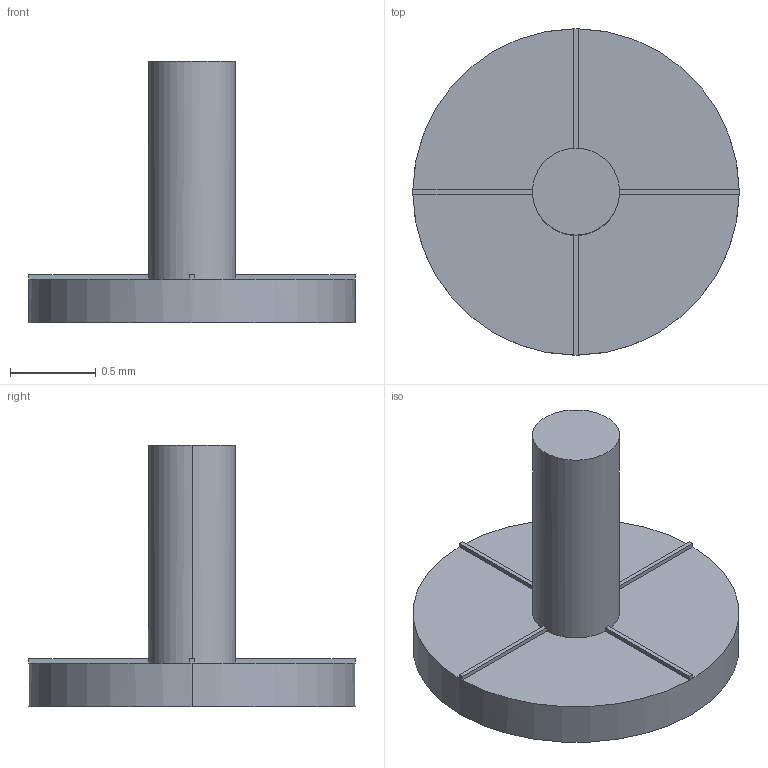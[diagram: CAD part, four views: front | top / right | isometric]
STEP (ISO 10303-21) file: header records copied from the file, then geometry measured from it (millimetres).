
FILE_DESCRIPTION((''),'2;1');
FILE_NAME('CONTACT_SIM_DUMMY-23','2020-09-24T20:53:17',('ccole'),(''),'CREO PARAMETRIC BY PTC INC, 2019292','CREO PARAMETRIC BY PTC INC, 2019292','');
FILE_SCHEMA(('CONFIG_CONTROL_DESIGN'));
Length unit declared in the file: inch
Products named in the file (1): CONTACT_SIM_DUMMY-23
Bounding box: 1.91 x 1.91 x 1.52 mm (x, y, z)
Volume: 1 mm3; surface area: 9.4 mm2
Topology: 1 solids, 1 shells, 26 faces, 64 edges, 40 vertices
Faces by surface type: plane 22, cylinder 4
Entity records: 806 total; most frequent: CARTESIAN_POINT 146, DIRECTION 128, ORIENTED_EDGE 128, EDGE_CURVE 64, AXIS2_PLACEMENT_3D 44, VECTOR 40, LINE 40, VERTEX_POINT 40
